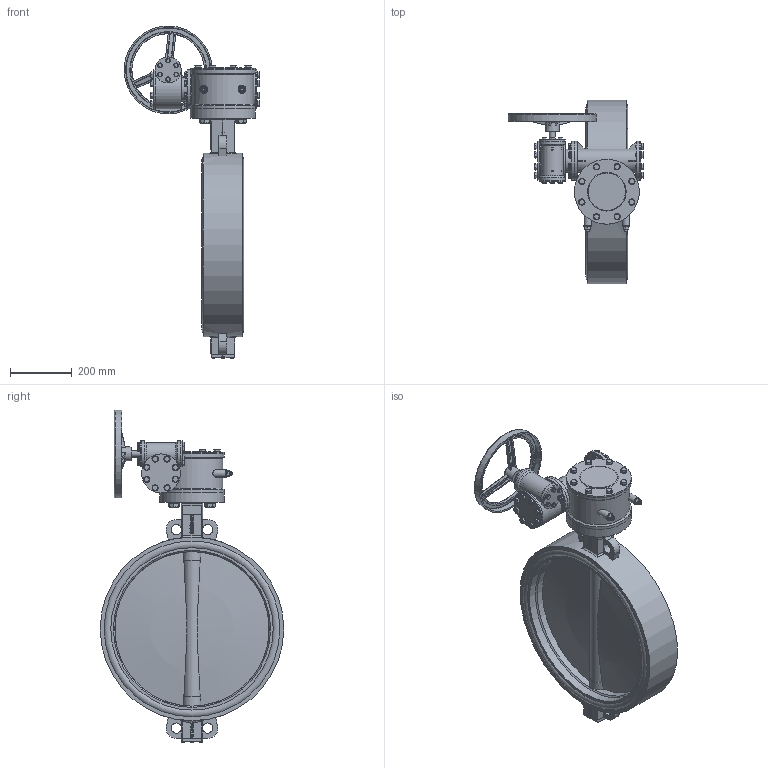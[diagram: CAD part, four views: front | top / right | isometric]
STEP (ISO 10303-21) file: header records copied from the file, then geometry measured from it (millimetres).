
FILE_DESCRIPTION(('STEP AP242'), '1');
FILE_NAME('Ïîâîðîòíûé çàòâîð ïîä ýëåêòðîïðèâîä', '', ('UNSPECIFIED'), ('UNSPECIFIED'), 'C3D Converter', 'C3D Toolkit', '');
FILE_SCHEMA(('AP242_MANAGED_MODEL_BASED_3D_ENGINEERING_MIM_LF { 1 0 10303 442 1 1 4 }'));
Length unit declared in the file: millimetre
Products named in the file (29): П; ШМ.М12.30
Assembly tree (130 placements, depth 3):
  (unnamed)
    (unnamed)
    П  x2
    (unnamed)
    (unnamed)
    (unnamed)
    (unnamed)
    (unnamed)  x4
    (unnamed)
      (unnamed)
      (unnamed)
      (unnamed)  x2
      (unnamed)
      (unnamed)
      (unnamed)
      (unnamed)
      (unnamed)
      (unnamed)  x2
      (unnamed)  x2
      (unnamed)  x32
      (unnamed)  x16
      (unnamed)  x8
      (unnamed)  x8
      ШМ.М12.30  x8
      (unnamed)  x12
      (unnamed)  x12
      (unnamed)
    (unnamed)  x4
    (unnamed)  x4
Bounding box: 438.66 x 594 x 1074.16 mm (x, y, z)
Volume: 26300238.5 mm3; surface area: 2959636.9 mm2
Topology: 129 solids, 129 shells, 1748 faces, 3779 edges, 2417 vertices
Faces by surface type: plane 932, cylinder 360, cone 171, extrusion 159, torus 62, bspline 60, sphere 4
Full cylindrical faces by diameter (mm): 5 x4, 6 x14, 8 x36, 8.4 x12, 10 x8, 10.647 x10, 12 x100, 12.564 x1, 13 x32, 15 x12, 20 x40, 21 x4, 22 x8, 24 x2, 33 x4, 34 x4, 45 x1, 46 x6, 60.325 x4, 65.054 x5, 76 x2, 84 x4, 121 x1, 126 x6, 200 x1, 210 x4, 235 x1, 245 x1, 275 x1, 285 x1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
Entity records: 46398 total; most frequent: CARTESIAN_POINT 21775, ORIENTED_EDGE 3634, DIRECTION 3404, EDGE_CURVE 1817, EDGE_LOOP 1355, VERTEX_POINT 1332, AXIS2_PLACEMENT_3D 1264, FACE_BOUND 925
